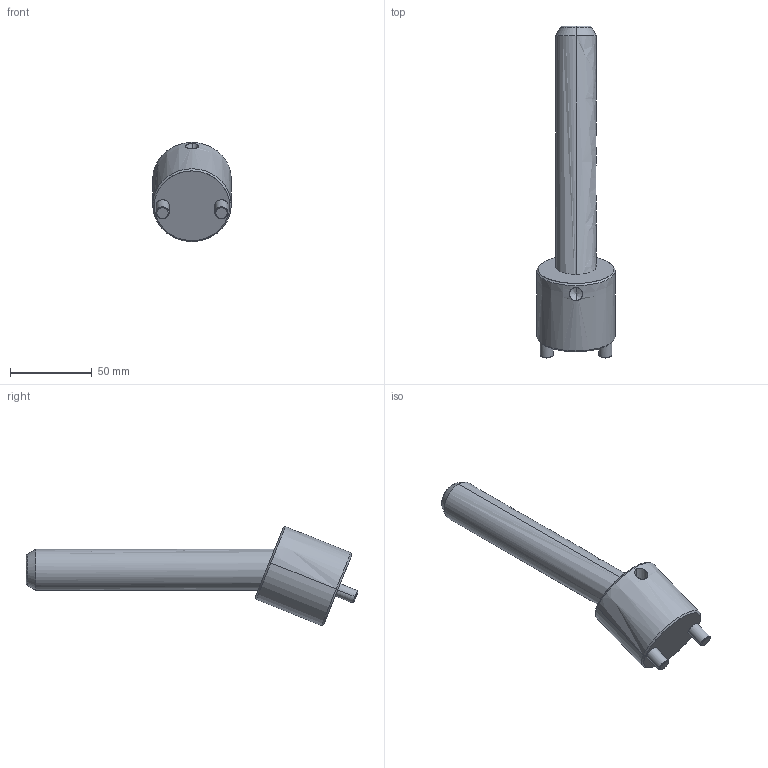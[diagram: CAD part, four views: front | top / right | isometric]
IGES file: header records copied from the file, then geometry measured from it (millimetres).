
Start section: START RECORD GO HERE.
Global section: file name: CI2225150.igs; native system: DASSAULT SYSTEMES CATIA V5 R20 - www.3ds.com; preprocessor: CATIA Version 5 Release 20 ; author: r.borello; organization: CFTORINO; date: 20190624.085258; units: millimetre
Bounding box: 48 x 203.03 x 60.61 mm (x, y, z)
Surface area: 29298 mm2 (no closed solid volume)
Topology: 0 solids, 0 shells, 39 faces, 162 edges, 160 vertices
Faces by surface type: revolution 32, plane 7
